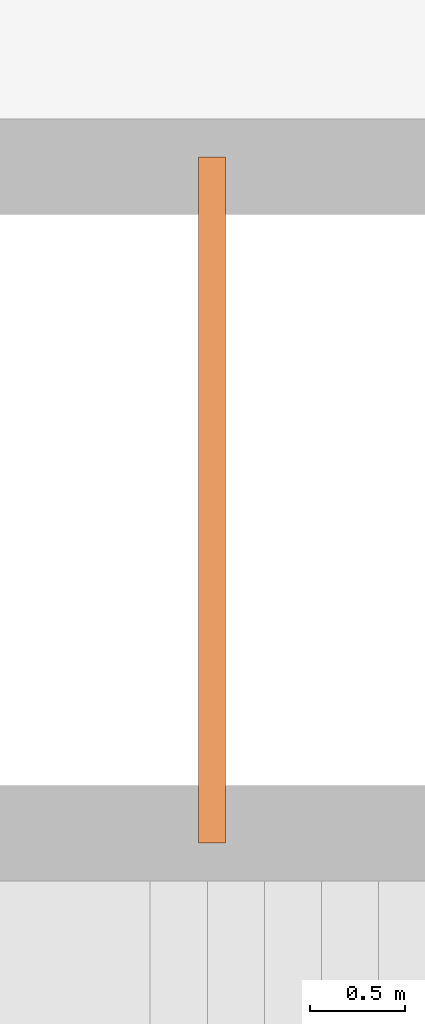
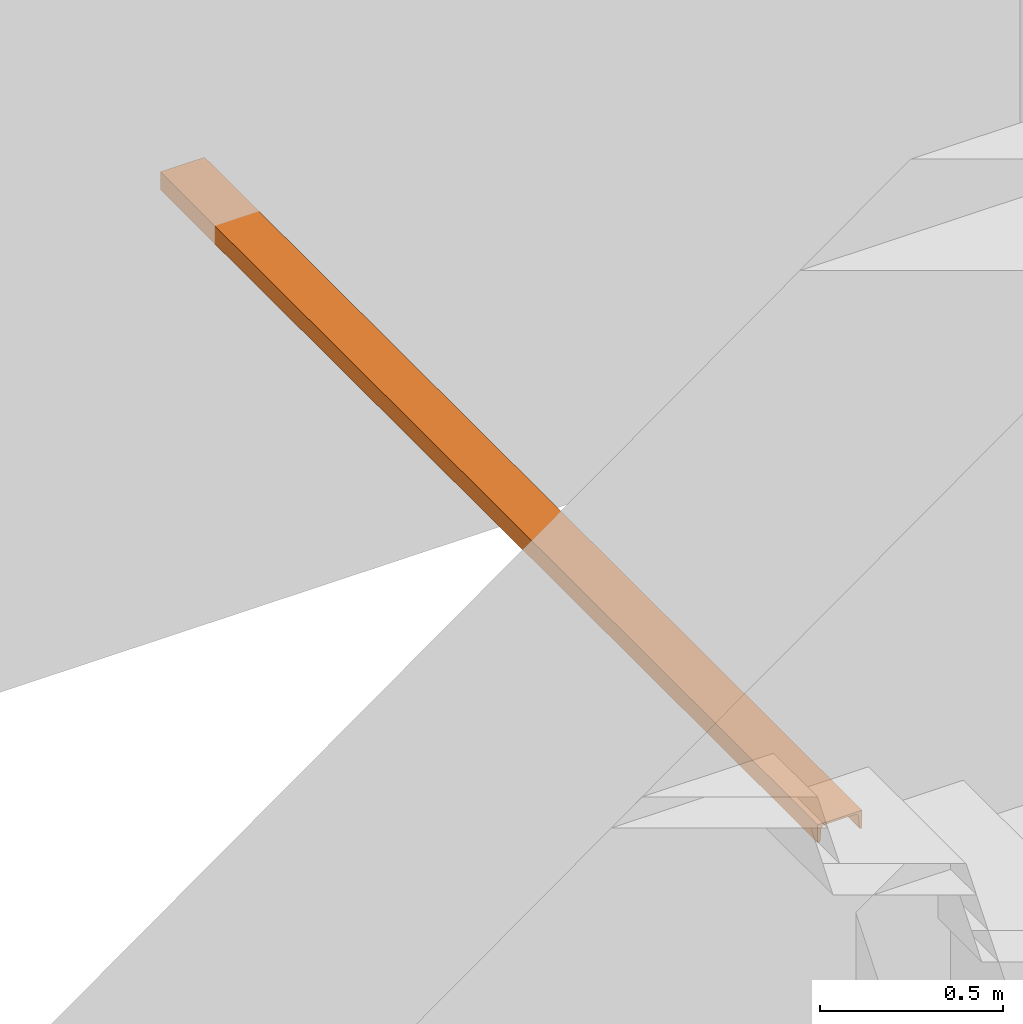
# One storey, part 27 of 27: 1 proxy.
"""IFC4 building model written with IfcOpenShell, lengths in metres."""

from ifc_helpers import new_model, entity, si_unit, converted_unit, derived_unit, frame, origin, origin_with_axes, place, context, subcontext, project, spatial, faceted_brep, source, transform, mapped, material, element, save


model = new_model("IFC4")

# Units and contexts
model_context = context("Model", 3, precision=1e-05, world=origin())
body_context = subcontext(model_context, "Body", "Model", "MODEL_VIEW")
ifc_project = project(units=[si_unit("LENGTHUNIT", "METRE"), si_unit("AREAUNIT", "SQUARE_METRE"), si_unit("VOLUMEUNIT", "CUBIC_METRE"), si_unit("MASSUNIT", "GRAM", prefix="KILO"), converted_unit("PLANEANGLEUNIT", "DEGREE", entity("IfcPlaneAngleMeasure", 0.0174532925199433), si_unit("PLANEANGLEUNIT", "RADIAN"), dimensions=[0, 0, 0, 0, 0, 0, 0]), derived_unit("THERMALTRANSMITTANCEUNIT", [(si_unit("POWERUNIT", "WATT"), 1), (si_unit("THERMODYNAMICTEMPERATUREUNIT", "KELVIN"), -1), (si_unit("LENGTHUNIT", "METRE"), -2)]), derived_unit("VOLUMETRICFLOWRATEUNIT", [(si_unit("LENGTHUNIT", "METRE"), 3), (converted_unit("TIMEUNIT", "hour", entity("IfcTimeMeasure", 3600.0), si_unit("TIMEUNIT", "SECOND"), dimensions=[0, 0, 1, 0, 0, 0, 0]), -1), (si_unit("LENGTHUNIT", "METRE"), -1)])], contexts=[model_context])

# Site, building, storey
site_placement = place(None, origin())
site = spatial("IfcSite", under=ifc_project, at=site_placement, Name="3. ASŘ", CompositionType="ELEMENT")
building_placement = place(site_placement, origin())
building = spatial("IfcBuilding", under=site, at=building_placement, Name="Pavilon C", CompositionType="ELEMENT")
storey_placement = place(building_placement, frame((0.0, 0.0, 10.5)))
storey = spatial("IfcBuildingStorey", under=building, at=storey_placement, Name="Půdorys 4.NP", CompositionType="ELEMENT", Elevation=10.5)

# Proxy
ifc_material = material(Name="U 140")
shared_shape = source(origin_with_axes(), body_context, "Body", "Brep", [
    faceted_brep([(7.105427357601e-18, 0.0, 0.0), (0.06, 0.0, 0.0), (0.06, 0.14, 0.0), (7.105427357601e-18, 0.14, 0.0), (0.0, 0.137015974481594, 0.0), (0.000220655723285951, 0.135547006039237, 0.0), (0.000863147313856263, 0.134207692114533, 0.0), (0.00187076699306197, 0.133116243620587, 0.0), (0.00315457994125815, 0.132368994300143, 0.0), (0.00460127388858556, 0.132031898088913, 0.0), (0.0437974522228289, 0.128896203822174, 0.0), (0.0466908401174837, 0.128222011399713, 0.0), (0.0492584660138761, 0.126727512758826, 0.0), (0.0512737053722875, 0.124544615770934, 0.0), (0.0525586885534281, 0.121865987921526, 0.0), (0.053, 0.118928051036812, 0.0), (0.053, 0.0210719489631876, 0.0), (0.0525586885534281, 0.0181340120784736, 0.0), (0.0512737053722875, 0.0154553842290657, 0.0), (0.0492584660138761, 0.0132724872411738, 0.0), (0.0466908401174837, 0.0117779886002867, 0.0), (0.0437974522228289, 0.0111037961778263, 0.0), (0.00460127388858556, 0.00796810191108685, 0.0), (0.00315457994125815, 0.00763100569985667, 0.0), (0.00187076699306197, 0.00688375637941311, 0.0), (0.000863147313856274, 0.00579230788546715, 0.0), (0.000220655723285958, 0.00445299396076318, 0.0), (7.105427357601e-18, 0.00298402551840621, 0.0), (0.06, 0.0, 3.6), (7.105427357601e-18, 0.0, 3.6), (7.105427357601e-18, 0.00298402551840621, 3.6), (0.000220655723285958, 0.00445299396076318, 3.6), (0.000863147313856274, 0.00579230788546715, 3.6), (0.00187076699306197, 0.00688375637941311, 3.6), (0.00315457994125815, 0.00763100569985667, 3.6), (0.00460127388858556, 0.00796810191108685, 3.6), (0.0437974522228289, 0.0111037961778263, 3.6), (0.0466908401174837, 0.0117779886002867, 3.6), (0.0492584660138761, 0.0132724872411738, 3.6), (0.0512737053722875, 0.0154553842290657, 3.6), (0.0525586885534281, 0.0181340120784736, 3.6), (0.053, 0.0210719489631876, 3.6), (0.053, 0.118928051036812, 3.6), (0.0525586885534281, 0.121865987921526, 3.6), (0.0512737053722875, 0.124544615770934, 3.6), (0.0492584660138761, 0.126727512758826, 3.6), (0.0466908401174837, 0.128222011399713, 3.6), (0.0437974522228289, 0.128896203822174, 3.6), (0.00460127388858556, 0.132031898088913, 3.6), (0.00315457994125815, 0.132368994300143, 3.6), (0.00187076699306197, 0.133116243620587, 3.6), (0.000863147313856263, 0.134207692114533, 3.6), (0.000220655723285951, 0.135547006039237, 3.6), (0.0, 0.137015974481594, 3.6), (7.105427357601e-18, 0.14, 3.6), (0.06, 0.14, 3.6)], [[[0, 1, 2, 3, 4, 5, 6, 7, 8, 9, 10, 11, 12, 13, 14, 15, 16, 17, 18, 19, 20, 21, 22, 23, 24, 25, 26, 27]], [[28, 29, 30, 31, 32, 33, 34, 35, 36, 37, 38, 39, 40, 41, 42, 43, 44, 45, 46, 47, 48, 49, 50, 51, 52, 53, 54, 55]], [[1, 0, 29, 28]], [[2, 1, 28, 55]], [[3, 2, 55, 54]], [[4, 3, 54, 53]], [[5, 4, 53, 52]], [[6, 5, 52, 51]], [[7, 6, 51, 50]], [[8, 7, 50, 49]], [[9, 8, 49, 48]], [[10, 9, 48, 47]], [[11, 10, 47, 46]], [[12, 11, 46, 45]], [[13, 12, 45, 44]], [[14, 13, 44, 43]], [[15, 14, 43, 42]], [[16, 15, 42, 41]], [[17, 16, 41, 40]], [[18, 17, 40, 39]], [[19, 18, 39, 38]], [[20, 19, 38, 37]], [[21, 20, 37, 36]], [[22, 21, 36, 35]], [[23, 22, 35, 34]], [[24, 23, 34, 33]], [[25, 24, 33, 32]], [[26, 25, 32, 31]], [[27, 26, 31, 30]], [[0, 27, 30, 29]]], orient=[[False], [False], [False], [False], [False], [False], [False], [False], [False], [False], [False], [False], [False], [False], [False], [False], [False], [False], [False], [False], [False], [False], [False], [False], [False], [False], [False], [False], [False], [False]]),
])
proxy_placement = place(storey_placement, frame((-6.52999999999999, 7.75, 0.84), z_axis=(-1.22464679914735e-16, -1.0, -2.44929359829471e-16), x_axis=(-5.34329236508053e-33, -2.44929359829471e-16, 1.0)))
element("IfcBuildingElementProxy", 1, at=proxy_placement, inside=storey, material=ifc_material, Name="Ocelový profil", context=body_context, shape_type="MappedRepresentation", body=[
    mapped(shared_shape, transform((0.0, 0.0, 0.0), x_axis=(1.0, 0.0, 0.0), y_axis=(0.0, 1.0, 0.0), z_axis=(0.0, 0.0, 1.0), scale=1.0)),
])

save(model, "model.ifc")
